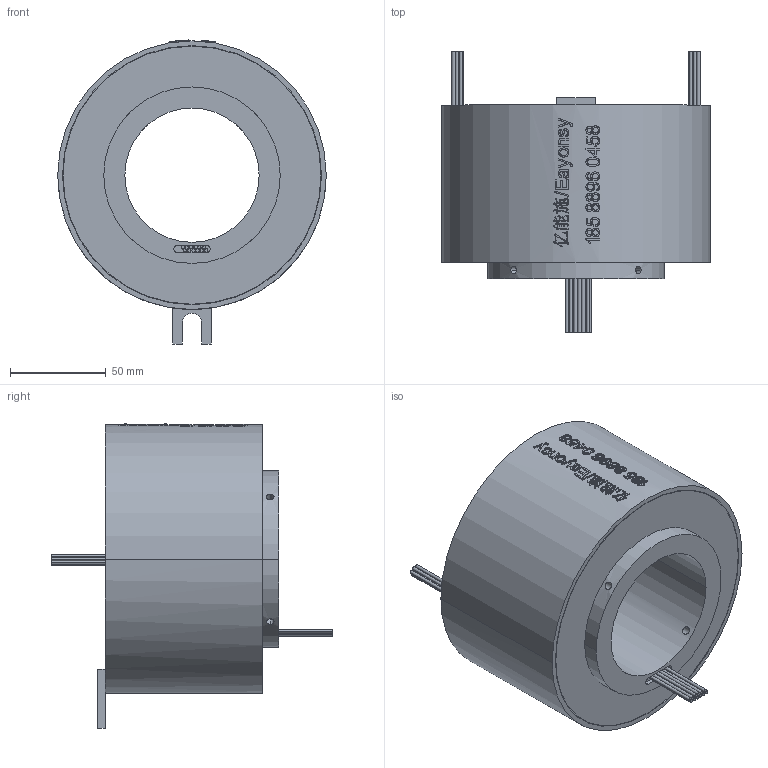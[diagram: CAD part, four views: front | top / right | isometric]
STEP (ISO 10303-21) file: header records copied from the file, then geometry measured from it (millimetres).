
FILE_DESCRIPTION(/* description */ (''),/* implementation_level */ '2;1');
FILE_NAME(/* name */ 'HD70140-1210.stp',/* time_stamp */ '2025-01-19T10:19:53+08:00',/* author */ (''),/* organization */ (''),/* preprocessor_version */ 'ST-DEVELOPER v16.7',/* originating_system */ 'SIEMENS PLM Software NX 12.0',/* authorisation */ '');
FILE_SCHEMA (('AUTOMOTIVE_DESIGN { 1 0 10303 214 3 1 1 1 }'));
Length unit declared in the file: millimetre
Products named in the file (1): HX05089CE4B9babe
Bounding box: 140 x 146.5 x 158.48 mm (x, y, z)
Volume: 972875.8 mm3; surface area: 91138.6 mm2
Topology: 1 solids, 1 shells, 463 faces, 1155 edges, 772 vertices
Faces by surface type: plane 236, cylinder 101, extrusion 93, bspline 29, torus 4
Entity records: 31687 total; most frequent: CARTESIAN_POINT 21652, ORIENTED_EDGE 2262, DIRECTION 1603, EDGE_CURVE 1131, VERTEX_POINT 760, B_SPLINE_CURVE_WITH_KNOTS 696, AXIS2_PLACEMENT_3D 640, EDGE_LOOP 565
